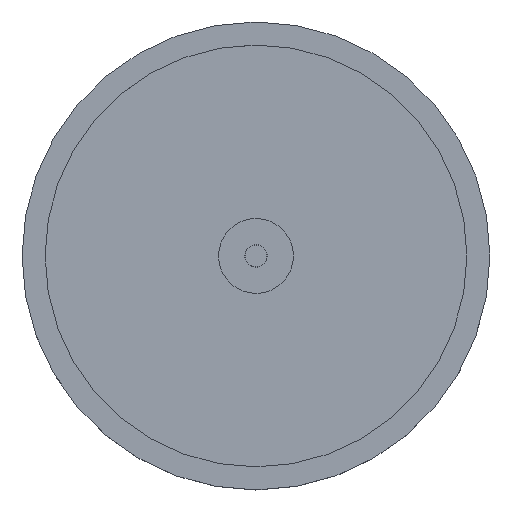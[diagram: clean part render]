
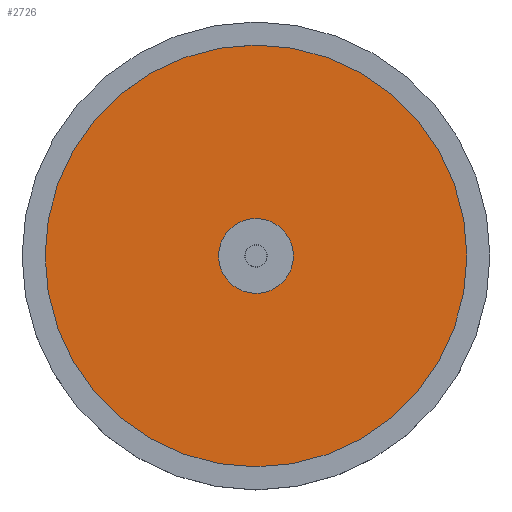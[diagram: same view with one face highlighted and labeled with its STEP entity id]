
A CAD part, top view. The second image highlights one B-rep face of the part: STEP entity #2726.
In plain terms, the highlighted planar face has unit normal (0, 0, 1) as drawn and (0, -1, 0) by its records, which use the part's own axes.
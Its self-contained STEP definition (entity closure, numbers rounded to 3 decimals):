
#119 = CARTESIAN_POINT ( 'NONE',  ( 0., 0., 0. ) ) ;
#148 = EDGE_LOOP ( 'NONE', ( #2498, #3746 ) ) ;
#206 = DIRECTION ( 'NONE',  ( 0., 0., 1. ) ) ;
#227 = DIRECTION ( 'NONE',  ( 0., 1., 0. ) ) ;
#488 = VERTEX_POINT ( 'NONE', #4305 ) ;
#511 = EDGE_CURVE ( 'NONE', #488, #3377, #5817, .T. ) ;
#625 = CARTESIAN_POINT ( 'NONE',  ( 0., 0., 0. ) ) ;
#904 = CARTESIAN_POINT ( 'NONE',  ( 0., 0., -5.25 ) ) ;
#1408 = EDGE_CURVE ( 'NONE', #4409, #4839, #4564, .T. ) ;
#1436 = ORIENTED_EDGE ( 'NONE', *, *, #2432, .T. ) ;
#1665 = ORIENTED_EDGE ( 'NONE', *, *, #1408, .T. ) ;
#1818 = AXIS2_PLACEMENT_3D ( 'NONE', #4748, #5134, #4275 ) ;
#1895 = CIRCLE ( 'NONE', #4469, 5.25 ) ;
#2006 = CARTESIAN_POINT ( 'NONE',  ( 0., 0., 5.25 ) ) ;
#2072 = PLANE ( 'NONE',  #2114 ) ;
#2114 = AXIS2_PLACEMENT_3D ( 'NONE', #5353, #2533, #206 ) ;
#2270 = DIRECTION ( 'NONE',  ( 0., 1., 0. ) ) ;
#2432 = EDGE_CURVE ( 'NONE', #4839, #4409, #1895, .T. ) ;
#2498 = ORIENTED_EDGE ( 'NONE', *, *, #2650, .F. ) ;
#2503 = CARTESIAN_POINT ( 'NONE',  ( 0., 0., -115. ) ) ;
#2533 = DIRECTION ( 'NONE',  ( 0., 1., 0. ) ) ;
#2650 = EDGE_CURVE ( 'NONE', #3377, #488, #3521, .T. ) ;
#2726 = ADVANCED_FACE ( 'NONE', ( #4071, #2872 ), #2072, .F. ) ;
#2872 = FACE_BOUND ( 'NONE', #4846, .T. ) ;
#3377 = VERTEX_POINT ( 'NONE', #2503 ) ;
#3420 = DIRECTION ( 'NONE',  ( 0., 1., 0. ) ) ;
#3521 = CIRCLE ( 'NONE', #3593, 115. ) ;
#3593 = AXIS2_PLACEMENT_3D ( 'NONE', #625, #227, #5296 ) ;
#3746 = ORIENTED_EDGE ( 'NONE', *, *, #511, .F. ) ;
#3748 = AXIS2_PLACEMENT_3D ( 'NONE', #119, #3420, #4329 ) ;
#4071 = FACE_OUTER_BOUND ( 'NONE', #148, .T. ) ;
#4169 = CARTESIAN_POINT ( 'NONE',  ( 0., 0., 0. ) ) ;
#4275 = DIRECTION ( 'NONE',  ( 0., 0., 1. ) ) ;
#4305 = CARTESIAN_POINT ( 'NONE',  ( 0., 0., 115. ) ) ;
#4329 = DIRECTION ( 'NONE',  ( 0., 0., 1. ) ) ;
#4409 = VERTEX_POINT ( 'NONE', #904 ) ;
#4469 = AXIS2_PLACEMENT_3D ( 'NONE', #4169, #2270, #5504 ) ;
#4564 = CIRCLE ( 'NONE', #3748, 5.25 ) ;
#4748 = CARTESIAN_POINT ( 'NONE',  ( 0., 0., 0. ) ) ;
#4839 = VERTEX_POINT ( 'NONE', #2006 ) ;
#4846 = EDGE_LOOP ( 'NONE', ( #1665, #1436 ) ) ;
#5134 = DIRECTION ( 'NONE',  ( 0., 1., 0. ) ) ;
#5296 = DIRECTION ( 'NONE',  ( 0., 0., 1. ) ) ;
#5353 = CARTESIAN_POINT ( 'NONE',  ( 0., 0., 0. ) ) ;
#5504 = DIRECTION ( 'NONE',  ( 0., 0., 1. ) ) ;
#5817 = CIRCLE ( 'NONE', #1818, 115. ) ;
